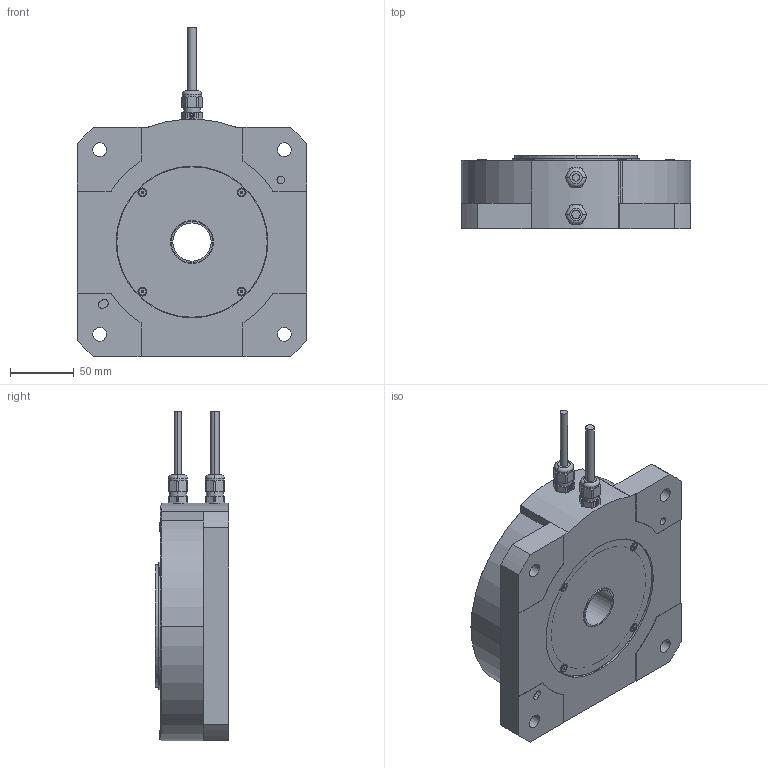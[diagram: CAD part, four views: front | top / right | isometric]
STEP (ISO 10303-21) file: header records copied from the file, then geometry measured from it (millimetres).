
FILE_DESCRIPTION (( 'STEP AP214' ), '1' );
FILE_NAME ('BZA01860.STEP', '2024-03-27T07:17:18', ( '' ), ( '' ), 'SwSTEP 2.0', 'SolidWorks 2023', '' );
FILE_SCHEMA (( 'AUTOMOTIVE_DESIGN' ));
Length unit declared in the file: millimetre
Products named in the file (1): BZA01860
Bounding box: 180 x 57.8 x 258.5 mm (x, y, z)
Volume: 626210.5 mm3; surface area: 203411.9 mm2
Topology: 17 solids, 17 shells, 800 faces, 2041 edges, 1279 vertices
Faces by surface type: cylinder 456, plane 148, cone 131, torus 37, sphere 22, bspline 6
Entity records: 25837 total; most frequent: CARTESIAN_POINT 6293, DIRECTION 4212, ORIENTED_EDGE 3950, EDGE_CURVE 1975, AXIS2_PLACEMENT_3D 1715, VERTEX_POINT 1279, CIRCLE 920, EDGE_LOOP 912
